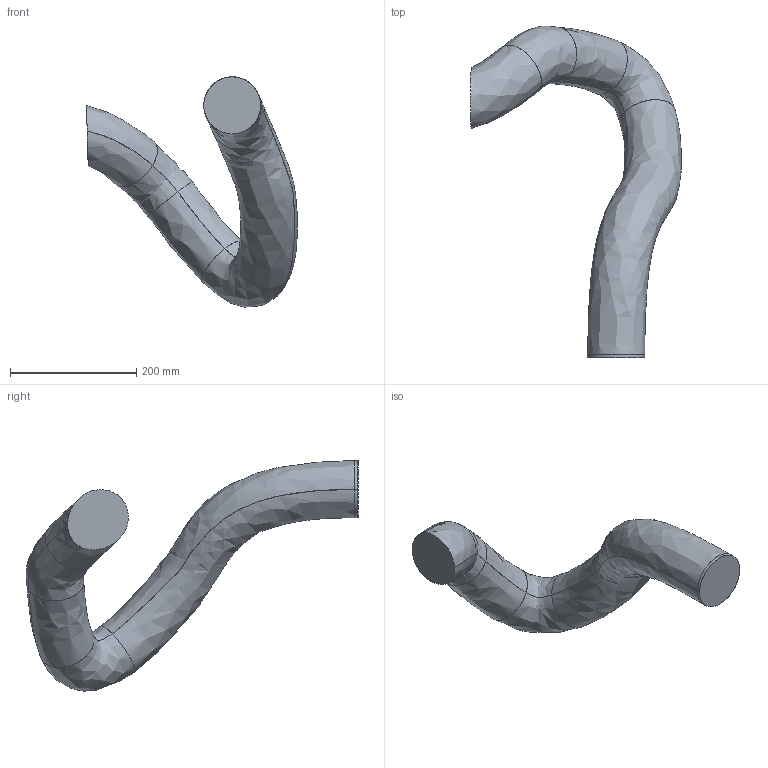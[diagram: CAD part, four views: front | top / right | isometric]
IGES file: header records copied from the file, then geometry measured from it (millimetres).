
Start section: SolidWorks IGES file using analytic representation for surfaces
Global section: file name: C:\Data\SAP_DOC\IRB6740_lightweight\6750S\IRB 6750S ASM\IRB6750S-LID-MH_220kg-360_OC_01_SW_J\IRB6750S-LID-MH_220kg-360_OC_01_IGES_J\IRB6750S-LID_ALL-360-OC_00_LINK05_CABLE.igs; native system: SolidWorks 2024; preprocessor: SolidWorks 2024; author: SEJAOLS6; date: 260513.073236; units: millimetre
Bounding box: 333.72 x 524.98 x 364.15 mm (x, y, z)
Surface area: 276115.7 mm2 (no closed solid volume)
Topology: 0 solids, 0 shells, 14 faces, 236 edges, 236 vertices
Faces by surface type: bspline 12, revolution 2
